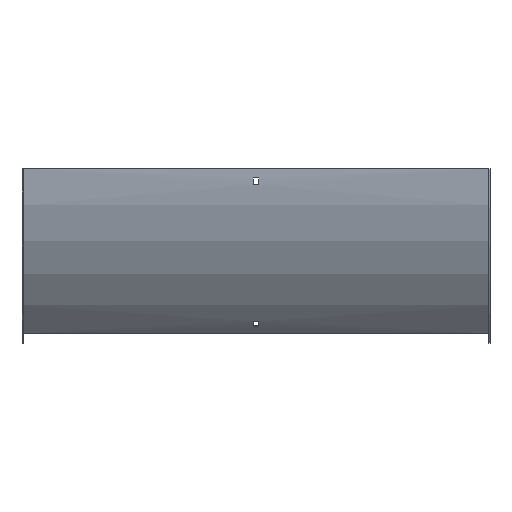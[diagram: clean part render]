
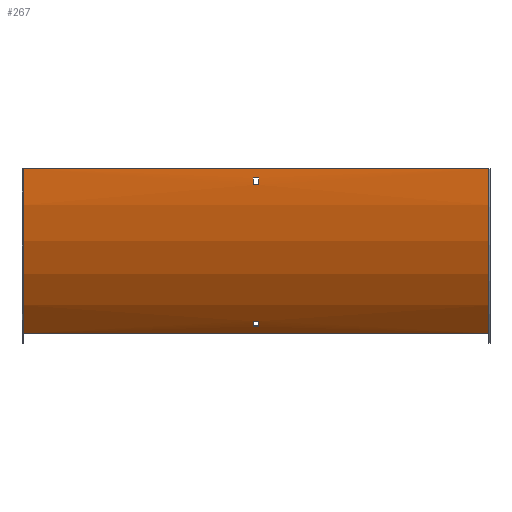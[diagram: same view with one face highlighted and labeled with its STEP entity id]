
A CAD part, front view. The second image highlights one B-rep face of the part: STEP entity #267.
In plain terms, the highlighted cylindrical face has radius 300 mm (diameter 600 mm), a partial arc.
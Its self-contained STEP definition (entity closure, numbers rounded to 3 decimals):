
#8 = CIRCLE ( 'NONE', #98, 300. ) ;
#16 = DIRECTION ( 'NONE',  ( -1., 0., 0. ) ) ;
#22 = DIRECTION ( 'NONE',  ( -1., 0., 0. ) ) ;
#24 = ORIENTED_EDGE ( 'NONE', *, *, #570, .T. ) ;
#47 = CARTESIAN_POINT ( 'NONE',  ( 301.5, 72.039, -196.762 ) ) ;
#49 = CARTESIAN_POINT ( 'NONE',  ( 3.25, 78.052, -203.477 ) ) ;
#53 = VERTEX_POINT ( 'NONE', #165 ) ;
#61 = AXIS2_PLACEMENT_3D ( 'NONE', #265, #213, #316 ) ;
#62 = ORIENTED_EDGE ( 'NONE', *, *, #119, .F. ) ;
#76 = FACE_BOUND ( 'NONE', #403, .T. ) ;
#77 = EDGE_CURVE ( 'NONE', #431, #110, #313, .T. ) ;
#88 = CARTESIAN_POINT ( 'NONE',  ( 301.5, -1.26, -12. ) ) ;
#98 = AXIS2_PLACEMENT_3D ( 'NONE', #338, #473, #235 ) ;
#102 = CARTESIAN_POINT ( 'NONE',  ( 300., -1.5, 0. ) ) ;
#106 = CARTESIAN_POINT ( 'NONE',  ( -3.25, -1.26, -12. ) ) ;
#110 = VERTEX_POINT ( 'NONE', #545 ) ;
#116 = EDGE_LOOP ( 'NONE', ( #593, #553, #581, #249 ) ) ;
#119 = EDGE_CURVE ( 'NONE', #146, #439, #211, .T. ) ;
#122 = VERTEX_POINT ( 'NONE', #331 ) ;
#124 = VECTOR ( 'NONE', #422, 1000. ) ;
#130 = CARTESIAN_POINT ( 'NONE',  ( 3.25, -0.764, -21. ) ) ;
#136 = ORIENTED_EDGE ( 'NONE', *, *, #227, .T. ) ;
#146 = VERTEX_POINT ( 'NONE', #400 ) ;
#156 = AXIS2_PLACEMENT_3D ( 'NONE', #456, #408, #399 ) ;
#157 = VECTOR ( 'NONE', #223, 1000. ) ;
#165 = CARTESIAN_POINT ( 'NONE',  ( -3.25, -0.764, -21. ) ) ;
#170 = VECTOR ( 'NONE', #262, 1000. ) ;
#172 = AXIS2_PLACEMENT_3D ( 'NONE', #486, #22, #349 ) ;
#176 = AXIS2_PLACEMENT_3D ( 'NONE', #182, #552, #190 ) ;
#182 = CARTESIAN_POINT ( 'NONE',  ( -300., 298.5, 0. ) ) ;
#184 = VERTEX_POINT ( 'NONE', #102 ) ;
#186 = EDGE_CURVE ( 'NONE', #402, #228, #8, .T. ) ;
#187 = EDGE_CURVE ( 'NONE', #228, #588, #285, .T. ) ;
#190 = DIRECTION ( 'NONE',  ( 0., 0., 1. ) ) ;
#199 = CIRCLE ( 'NONE', #232, 300. ) ;
#200 = CARTESIAN_POINT ( 'NONE',  ( 300., 86.368, -212.132 ) ) ;
#210 = DIRECTION ( 'NONE',  ( 1., 0., 0. ) ) ;
#211 = LINE ( 'NONE', #88, #443 ) ;
#213 = DIRECTION ( 'NONE',  ( -1., 0., 0. ) ) ;
#217 = CIRCLE ( 'NONE', #156, 300. ) ;
#223 = DIRECTION ( 'NONE',  ( 1., 0., 0. ) ) ;
#227 = EDGE_CURVE ( 'NONE', #431, #184, #199, .T. ) ;
#228 = VERTEX_POINT ( 'NONE', #49 ) ;
#232 = AXIS2_PLACEMENT_3D ( 'NONE', #429, #16, #451 ) ;
#235 = DIRECTION ( 'NONE',  ( 0., 0., 1. ) ) ;
#237 = EDGE_CURVE ( 'NONE', #333, #146, #217, .T. ) ;
#246 = ORIENTED_EDGE ( 'NONE', *, *, #580, .F. ) ;
#249 = ORIENTED_EDGE ( 'NONE', *, *, #186, .T. ) ;
#254 = CARTESIAN_POINT ( 'NONE',  ( -300., -1.5, 0. ) ) ;
#262 = DIRECTION ( 'NONE',  ( -1., 0., 0. ) ) ;
#265 = CARTESIAN_POINT ( 'NONE',  ( 301.5, 298.5, 0. ) ) ;
#267 = ADVANCED_FACE ( 'NONE', ( #76, #404, #311 ), #556, .T. ) ;
#274 = LINE ( 'NONE', #465, #464 ) ;
#279 = EDGE_CURVE ( 'NONE', #439, #53, #327, .T. ) ;
#280 = DIRECTION ( 'NONE',  ( -1., 0., 0. ) ) ;
#285 = LINE ( 'NONE', #475, #124 ) ;
#286 = DIRECTION ( 'NONE',  ( 1., 0., 0. ) ) ;
#311 = FACE_BOUND ( 'NONE', #116, .T. ) ;
#313 = LINE ( 'NONE', #347, #170 ) ;
#315 = ORIENTED_EDGE ( 'NONE', *, *, #279, .F. ) ;
#316 = DIRECTION ( 'NONE',  ( 0., 0., 1. ) ) ;
#327 = CIRCLE ( 'NONE', #390, 300. ) ;
#331 = CARTESIAN_POINT ( 'NONE',  ( -3.25, 72.039, -196.762 ) ) ;
#333 = VERTEX_POINT ( 'NONE', #130 ) ;
#335 = CARTESIAN_POINT ( 'NONE',  ( -3.25, 298.5, 0. ) ) ;
#338 = CARTESIAN_POINT ( 'NONE',  ( 3.25, 298.5, 0. ) ) ;
#341 = ORIENTED_EDGE ( 'NONE', *, *, #77, .F. ) ;
#347 = CARTESIAN_POINT ( 'NONE',  ( 300., 86.368, -212.132 ) ) ;
#349 = DIRECTION ( 'NONE',  ( 0., 0., -1. ) ) ;
#355 = EDGE_CURVE ( 'NONE', #122, #402, #466, .T. ) ;
#361 = DIRECTION ( 'NONE',  ( -1., 0., 0. ) ) ;
#367 = EDGE_CURVE ( 'NONE', #588, #122, #576, .T. ) ;
#388 = LINE ( 'NONE', #441, #481 ) ;
#390 = AXIS2_PLACEMENT_3D ( 'NONE', #335, #286, #474 ) ;
#397 = EDGE_CURVE ( 'NONE', #53, #333, #388, .T. ) ;
#398 = ORIENTED_EDGE ( 'NONE', *, *, #397, .F. ) ;
#399 = DIRECTION ( 'NONE',  ( 0., 0., -1. ) ) ;
#400 = CARTESIAN_POINT ( 'NONE',  ( 3.25, -1.26, -12. ) ) ;
#402 = VERTEX_POINT ( 'NONE', #539 ) ;
#403 = EDGE_LOOP ( 'NONE', ( #315, #62, #413, #398 ) ) ;
#404 = FACE_OUTER_BOUND ( 'NONE', #415, .T. ) ;
#408 = DIRECTION ( 'NONE',  ( -1., 0., 0. ) ) ;
#413 = ORIENTED_EDGE ( 'NONE', *, *, #237, .F. ) ;
#415 = EDGE_LOOP ( 'NONE', ( #246, #341, #136, #24 ) ) ;
#421 = CIRCLE ( 'NONE', #176, 300. ) ;
#422 = DIRECTION ( 'NONE',  ( -1., 0., 0. ) ) ;
#429 = CARTESIAN_POINT ( 'NONE',  ( 300., 298.5, 0. ) ) ;
#431 = VERTEX_POINT ( 'NONE', #200 ) ;
#439 = VERTEX_POINT ( 'NONE', #106 ) ;
#441 = CARTESIAN_POINT ( 'NONE',  ( 301.5, -0.764, -21. ) ) ;
#443 = VECTOR ( 'NONE', #361, 1000. ) ;
#449 = VERTEX_POINT ( 'NONE', #254 ) ;
#451 = DIRECTION ( 'NONE',  ( 0., 0., 1. ) ) ;
#456 = CARTESIAN_POINT ( 'NONE',  ( 3.25, 298.5, 0. ) ) ;
#464 = VECTOR ( 'NONE', #280, 1000. ) ;
#465 = CARTESIAN_POINT ( 'NONE',  ( 300., -1.5, 0. ) ) ;
#466 = LINE ( 'NONE', #47, #157 ) ;
#467 = CARTESIAN_POINT ( 'NONE',  ( -3.25, 78.052, -203.477 ) ) ;
#473 = DIRECTION ( 'NONE',  ( 1., 0., 0. ) ) ;
#474 = DIRECTION ( 'NONE',  ( 0., 0., 1. ) ) ;
#475 = CARTESIAN_POINT ( 'NONE',  ( 301.5, 78.052, -203.477 ) ) ;
#481 = VECTOR ( 'NONE', #210, 1000. ) ;
#486 = CARTESIAN_POINT ( 'NONE',  ( -3.25, 298.5, 0. ) ) ;
#539 = CARTESIAN_POINT ( 'NONE',  ( 3.25, 72.039, -196.762 ) ) ;
#545 = CARTESIAN_POINT ( 'NONE',  ( -300., 86.368, -212.132 ) ) ;
#552 = DIRECTION ( 'NONE',  ( -1., 0., 0. ) ) ;
#553 = ORIENTED_EDGE ( 'NONE', *, *, #367, .T. ) ;
#556 = CYLINDRICAL_SURFACE ( 'NONE', #61, 300. ) ;
#570 = EDGE_CURVE ( 'NONE', #184, #449, #274, .T. ) ;
#576 = CIRCLE ( 'NONE', #172, 300. ) ;
#580 = EDGE_CURVE ( 'NONE', #110, #449, #421, .T. ) ;
#581 = ORIENTED_EDGE ( 'NONE', *, *, #355, .T. ) ;
#588 = VERTEX_POINT ( 'NONE', #467 ) ;
#593 = ORIENTED_EDGE ( 'NONE', *, *, #187, .T. ) ;
